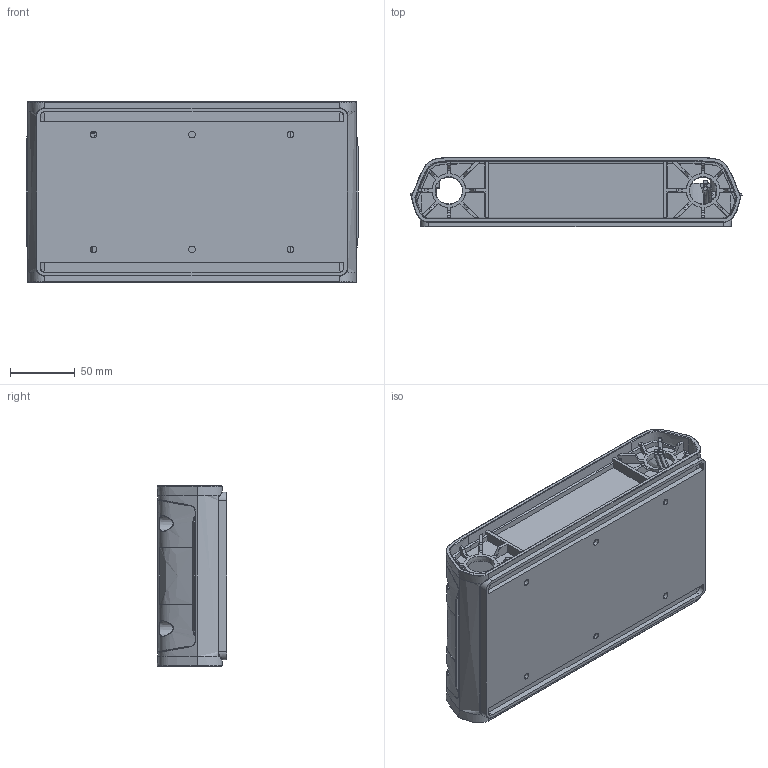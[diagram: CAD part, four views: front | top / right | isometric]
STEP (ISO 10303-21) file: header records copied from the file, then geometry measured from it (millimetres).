
FILE_DESCRIPTION (( 'STEP AP203' ), '1' );
FILE_NAME ('PS3HD_CDN_ASSY.STEP', '2020-06-19T17:50:46', ( '' ), ( '' ), 'SwSTEP 2.0', 'SolidWorks 2018', '' );
FILE_SCHEMA (( 'CONFIG_CONTROL_DESIGN' ));
Length unit declared in the file: millimetre
Products named in the file (1): PS3HD_CDN_ASSY
Bounding box: 257.04 x 53.73 x 139.7 mm (x, y, z)
Surface area: 208232 mm2 (no closed solid volume)
Topology: 0 solids, 31 shells, 725 faces, 2720 edges, 2017 vertices
Faces by surface type: plane 358, bspline 157, cylinder 115, cone 79, sphere 16
Entity records: 57461 total; most frequent: CARTESIAN_POINT 36637, ORIENTED_EDGE 4545, DIRECTION 3459, EDGE_CURVE 2720, VERTEX_POINT 2017, VECTOR 1205, LINE 1205, AXIS2_PLACEMENT_3D 1127
